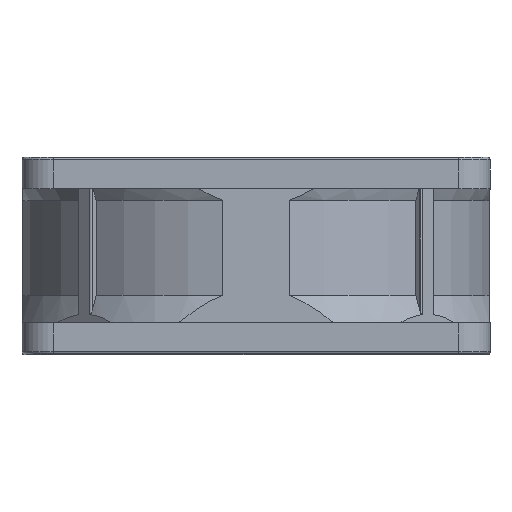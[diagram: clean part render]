
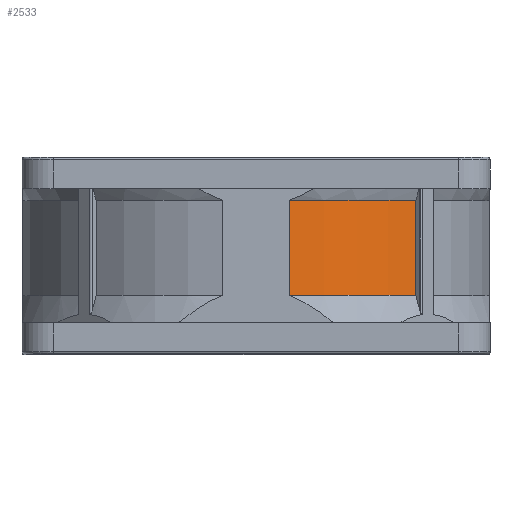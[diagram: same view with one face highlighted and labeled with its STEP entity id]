
A CAD part, top view. The second image highlights one B-rep face of the part: STEP entity #2533.
In plain terms, the highlighted cylindrical face has radius 30.2 mm (diameter 60.4 mm), a partial arc.
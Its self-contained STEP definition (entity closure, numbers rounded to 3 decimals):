
#160 = AXIS2_PLACEMENT_3D ( 'NONE', #15476, #2684, #8806 ) ;
#1246 = DIRECTION ( 'NONE',  ( 0., -1., 0. ) ) ;
#2183 = EDGE_CURVE ( 'NONE', #8331, #10848, #27256, .T. ) ;
#2533 = ADVANCED_FACE ( 'NONE', ( #23899 ), #11839, .T. ) ;
#2684 = DIRECTION ( 'NONE',  ( 0., -1., 0. ) ) ;
#3851 = EDGE_CURVE ( 'NONE', #8331, #25209, #20542, .T. ) ;
#7574 = ORIENTED_EDGE ( 'NONE', *, *, #18747, .T. ) ;
#8331 = VERTEX_POINT ( 'NONE', #25177 ) ;
#8806 = DIRECTION ( 'NONE',  ( 0., 0., -1. ) ) ;
#8815 = VECTOR ( 'NONE', #24153, 1000. ) ;
#10032 = DIRECTION ( 'NONE',  ( 0., 1., 0. ) ) ;
#10848 = VERTEX_POINT ( 'NONE', #17156 ) ;
#11839 = CYLINDRICAL_SURFACE ( 'NONE', #160, 30.2 ) ;
#12036 = DIRECTION ( 'NONE',  ( 0., -1., 0. ) ) ;
#12299 = CARTESIAN_POINT ( 'NONE',  ( 20.489, -11.591, 22.186 ) ) ;
#12349 = CIRCLE ( 'NONE', #15742, 30.2 ) ;
#14023 = CARTESIAN_POINT ( 'NONE',  ( 0., 7.5, 0. ) ) ;
#14337 = CARTESIAN_POINT ( 'NONE',  ( 4.246, 7.5, 29.9 ) ) ;
#14546 = LINE ( 'NONE', #23975, #8815 ) ;
#14851 = CARTESIAN_POINT ( 'NONE',  ( 4.246, 19.7, 29.9 ) ) ;
#15476 = CARTESIAN_POINT ( 'NONE',  ( 0., -11.591, 0. ) ) ;
#15742 = AXIS2_PLACEMENT_3D ( 'NONE', #24857, #12036, #26999 ) ;
#15821 = ORIENTED_EDGE ( 'NONE', *, *, #3851, .F. ) ;
#15889 = VECTOR ( 'NONE', #10032, 1000. ) ;
#16191 = DIRECTION ( 'NONE',  ( 0., 0., -1. ) ) ;
#17156 = CARTESIAN_POINT ( 'NONE',  ( 20.489, 19.7, 22.186 ) ) ;
#17911 = EDGE_CURVE ( 'NONE', #23584, #25209, #14546, .T. ) ;
#18650 = ORIENTED_EDGE ( 'NONE', *, *, #2183, .T. ) ;
#18747 = EDGE_CURVE ( 'NONE', #10848, #23584, #12349, .T. ) ;
#20542 = CIRCLE ( 'NONE', #21477, 30.2 ) ;
#21477 = AXIS2_PLACEMENT_3D ( 'NONE', #14023, #1246, #16191 ) ;
#21627 = EDGE_LOOP ( 'NONE', ( #7574, #24160, #15821, #18650 ) ) ;
#23584 = VERTEX_POINT ( 'NONE', #14851 ) ;
#23899 = FACE_OUTER_BOUND ( 'NONE', #21627, .T. ) ;
#23975 = CARTESIAN_POINT ( 'NONE',  ( 4.246, -11.591, 29.9 ) ) ;
#24153 = DIRECTION ( 'NONE',  ( 0., -1., 0. ) ) ;
#24160 = ORIENTED_EDGE ( 'NONE', *, *, #17911, .T. ) ;
#24857 = CARTESIAN_POINT ( 'NONE',  ( 0., 19.7, 0. ) ) ;
#25177 = CARTESIAN_POINT ( 'NONE',  ( 20.489, 7.5, 22.186 ) ) ;
#25209 = VERTEX_POINT ( 'NONE', #14337 ) ;
#26999 = DIRECTION ( 'NONE',  ( 0., 0., -1. ) ) ;
#27256 = LINE ( 'NONE', #12299, #15889 ) ;
